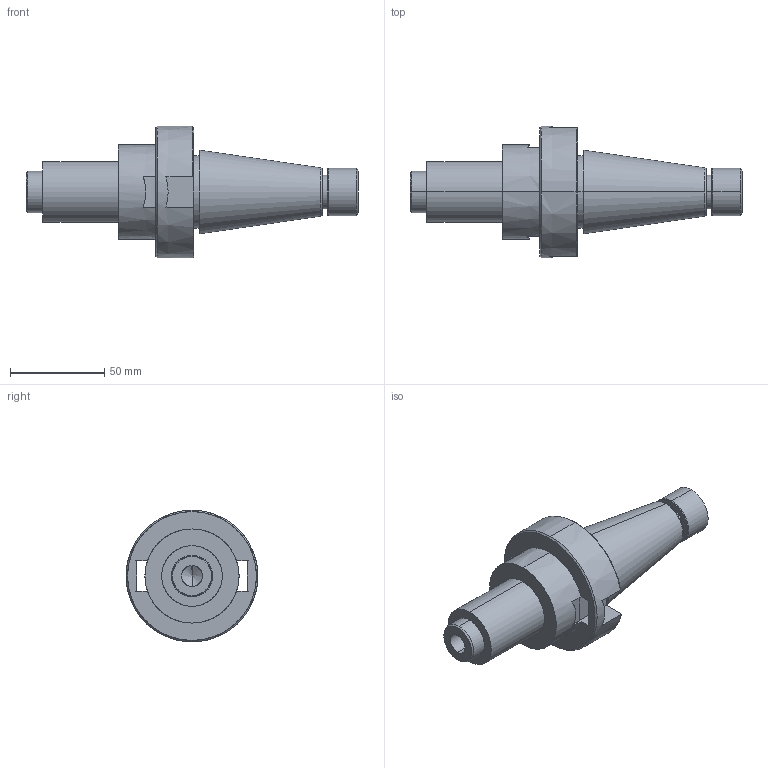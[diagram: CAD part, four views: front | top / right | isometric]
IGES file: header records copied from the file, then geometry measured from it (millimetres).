
Start section: SolidWorks IGES file using analytic representation for surfaces
Global section: file name: J:\Scolaire\BAC Pro\Epreuves professionnelles\E2\CD\Dossier Examinateurs\Dessins CN 5 axes\IGES\Cone SA40.IGS; native system: SolidWorks 2005 by SolidWorks Corporation; preprocessor: SolidWorks 2005 by SolidWorks Corporation; author: Famille Couzi; date: 091204.123626; units: millimetre
Bounding box: 176.42 x 70 x 70 mm (x, y, z)
Surface area: 35219.6 mm2 (no closed solid volume)
Topology: 0 solids, 0 shells, 61 faces, 1122 edges, 1118 vertices
Faces by surface type: revolution 42, bspline 19
